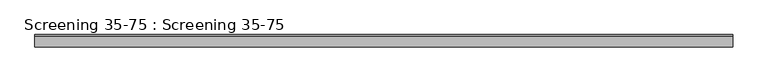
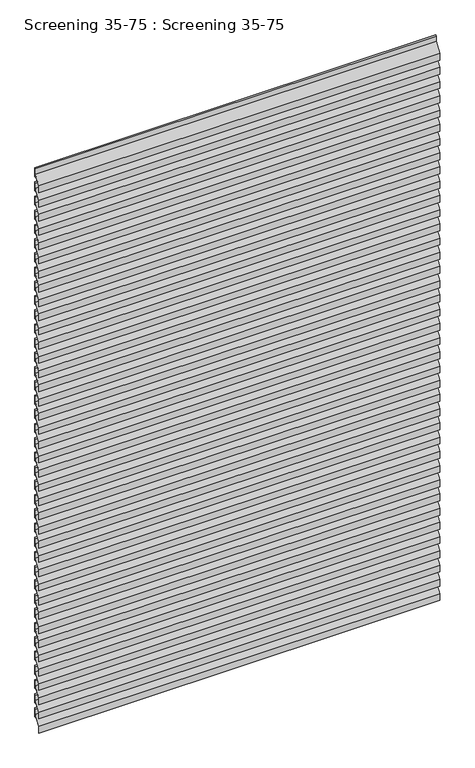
"""IFC4 building model written with IfcOpenShell, lengths in millimetres: plate geometry, Screening 35-75 : Screening 35-75."""

import ifcopenshell
import ifcopenshell.guid

model = None  # the IFC model being written
_history = None  # IfcOwnerHistory: only IFC2X3 demands one
_inside = {}  # id of a spatial element -> (the spatial element, [elements in it])
_under = {}  # id of a project, library or spatial element -> (it, [spatial elements below it])
_declared = {}  # id of a project -> (the project, [libraries it declares])
_typed = {}  # id of a type object -> (the type object, [elements of that type])
_made_of = {}  # id of a material, layer set ... -> (it, [elements and type objects made of it])


def new_model(schema):
    """Start an empty IFC model of exactly this schema.

    Asked for "IFC4X3", IfcOpenShell would pick the latest addendum, in which some entities
    have other attributes; the version numbers below select the first issue.
    IFC2X3 requires an IfcOwnerHistory on every rooted entity: one is made here for all.
    """
    global model, _history
    if schema == "IFC4X3":
        model = ifcopenshell.file(schema_version=(4, 3, 0, 0))
    else:
        model = ifcopenshell.file(schema=schema)
    _inside.clear()
    _under.clear()
    _declared.clear()
    _typed.clear()
    _made_of.clear()
    _history = None
    if model.schema == "IFC2X3":
        org = make("IfcOrganization", Name="unknown")
        user = make(
            "IfcPersonAndOrganization",
            ThePerson=make("IfcPerson", FamilyName="unknown"),
            TheOrganization=org,
        )
        app = make(
            "IfcApplication",
            ApplicationDeveloper=org,
            Version="unknown",
            ApplicationFullName="unknown",
            ApplicationIdentifier="unknown",
        )
        _history = make(
            "IfcOwnerHistory",
            OwningUser=user,
            OwningApplication=app,
            ChangeAction="ADDED",
            CreationDate=0,
        )
    return model


def make(cls, **values):
    """One entity of the class cls with the attributes given. An attribute that is None is left unset."""
    return model.create_entity(
        cls, **{name: value for name, value in values.items() if value is not None}
    )


def rooted(cls, **values):
    """An entity with a GlobalId (a new one), such as an element, a storey or a relation."""
    return make(cls, GlobalId=ifcopenshell.guid.new(), OwnerHistory=_history, **values)


def si_unit(unit_type, name, prefix=None):
    """IfcSIUnit, for example si_unit("LENGTHUNIT", "METRE", prefix="MILLI")."""
    return make("IfcSIUnit", UnitType=unit_type, Prefix=prefix, Name=name)


def assignment(units):
    """IfcUnitAssignment: the units of a project."""
    return None if units is None else make("IfcUnitAssignment", Units=units)


def point(xyz):
    """IfcCartesianPoint."""
    return None if xyz is None else make("IfcCartesianPoint", Coordinates=xyz)


def direction(xyz):
    """IfcDirection."""
    return None if xyz is None else make("IfcDirection", DirectionRatios=xyz)


def frame(location, z_axis=None, x_axis=None):
    """IfcAxis2Placement3D, a coordinate frame: its origin and axes. An axis left out is left unset."""
    return make(
        "IfcAxis2Placement3D",
        Location=point(location),
        Axis=direction(z_axis),
        RefDirection=direction(x_axis),
    )


def origin():
    """The frame at (0, 0, 0) with its axes left unset."""
    return frame((0.0, 0.0, 0.0))


def place(relative_to, where):
    """IfcLocalPlacement: puts the frame where relative to a parent placement (None: the world)."""
    return make(
        "IfcLocalPlacement", PlacementRelTo=relative_to, RelativePlacement=where
    )


def context(
    kind, dimensions, precision=None, world=None, true_north=None, identifier=None
):
    """IfcGeometricRepresentationContext, for example the 3D "Model" context."""
    return make(
        "IfcGeometricRepresentationContext",
        ContextIdentifier=identifier,
        ContextType=kind,
        CoordinateSpaceDimension=dimensions,
        Precision=precision,
        WorldCoordinateSystem=world,
        TrueNorth=true_north,
    )


def project(units=None, contexts=None):
    """IfcProject with its units and contexts."""
    return rooted(
        "IfcProject",
        Name="project",
        RepresentationContexts=contexts,
        UnitsInContext=assignment(units),
    )


def spatial(cls, under=None, at=None, **own):
    """A site, building, storey or space (cls), placed at a placement, below another one or the project."""
    s = rooted(cls, ObjectPlacement=at, **own)
    if under is not None:
        _under.setdefault(under.id(), (under, []))[1].append(s)
    return s


def polyline(points):
    """IfcPolyline through the points."""
    return make("IfcPolyline", Points=[point(p) for p in points])


def outline(outer, holes=None, kind="AREA"):
    """IfcArbitraryClosedProfileDef: a profile drawn as a closed curve; with holes, ...WithVoids."""
    if holes is None:
        return make("IfcArbitraryClosedProfileDef", ProfileType=kind, OuterCurve=outer)
    return make(
        "IfcArbitraryProfileDefWithVoids",
        ProfileType=kind,
        OuterCurve=outer,
        InnerCurves=holes,
    )


def extrude(swept, where, along, depth):
    """IfcExtrudedAreaSolid: the profile swept, set in the frame where, extruded along a direction by depth."""
    return make(
        "IfcExtrudedAreaSolid",
        SweptArea=swept,
        Position=where,
        ExtrudedDirection=direction(along),
        Depth=depth,
    )


def shape(context_of_items, identifier, shape_type, items):
    """IfcShapeRepresentation: the items that make up one representation, for example the "Body"."""
    return make(
        "IfcShapeRepresentation",
        ContextOfItems=context_of_items,
        RepresentationIdentifier=identifier,
        RepresentationType=shape_type,
        Items=items,
    )


def source(mapping_origin, context_of_items, identifier, shape_type, items):
    """IfcRepresentationMap: a shape defined once, which mapped items show again and again."""
    return make(
        "IfcRepresentationMap",
        MappingOrigin=mapping_origin,
        MappedRepresentation=shape(context_of_items, identifier, shape_type, items),
    )


def transform(
    local_origin,
    x_axis=None,
    y_axis=None,
    z_axis=None,
    scale=None,
    scale2=None,
    scale3=None,
    uniform=True,
):
    """IfcCartesianTransformationOperator3D, or its non-uniform kind. x_axis, y_axis, z_axis: its Axis1, 2, 3."""
    if uniform:
        return make(
            "IfcCartesianTransformationOperator3D",
            Axis1=direction(x_axis),
            Axis2=direction(y_axis),
            LocalOrigin=point(local_origin),
            Scale=scale,
            Axis3=direction(z_axis),
        )
    return make(
        "IfcCartesianTransformationOperator3DnonUniform",
        Axis1=direction(x_axis),
        Axis2=direction(y_axis),
        LocalOrigin=point(local_origin),
        Scale=scale,
        Axis3=direction(z_axis),
        Scale2=scale2,
        Scale3=scale3,
    )


def mapped(mapping_source, mapping_target):
    """IfcMappedItem: shows the shape of a source again, moved by a transform."""
    return make(
        "IfcMappedItem", MappingSource=mapping_source, MappingTarget=mapping_target
    )


def made_of(thing, what):
    """Note that an element or type object is made of a material, layer set ...; save() writes the relation."""
    if what is not None:
        _made_of.setdefault(what.id(), (what, []))[1].append(thing)
    return thing


def element(
    cls,
    number,
    at=None,
    inside=None,
    cuts=None,
    type_object=None,
    material=None,
    context=None,
    identifier="Body",
    shape_type=None,
    held_by="IfcProductDefinitionShape",
    body=None,
    shapes=None,
    **own,
):
    """One element of the class cls, such as IfcWall. Its Tag is "e" and its number.

    at: its placement. inside: the storey or other place that contains it. cuts: it is an
    opening in that element (IfcRelVoidsElement). A single representation is given by context,
    identifier, shape_type and body (its items); several are given by shapes. held_by: the class
    of the entity that holds the representations. save() writes the other relations.
    """
    e = rooted(cls, Tag="e%d" % number, ObjectPlacement=at, **own)
    if body is not None:
        shapes = [shape(context, identifier, shape_type, body)]
    if shapes is not None:
        e.Representation = make(held_by, Representations=shapes)
    if inside is not None:
        _inside.setdefault(inside.id(), (inside, []))[1].append(e)
    if cuts is not None:
        rooted(
            "IfcRelVoidsElement", RelatingBuildingElement=cuts, RelatedOpeningElement=e
        )
    if type_object is not None:
        _typed.setdefault(type_object.id(), (type_object, []))[1].append(e)
    return made_of(e, material)


def aggregate(whole, parts):
    """IfcRelAggregates: a whole, such as a stair, and the parts it consists of."""
    return rooted("IfcRelAggregates", RelatingObject=whole, RelatedObjects=parts)


def save(model, path):
    """Write the relations noted so far, then the file.

    IfcRelAggregates (storeys below a building ...), IfcRelContainedInSpatialStructure (elements
    in a storey), IfcRelDefinesByType, IfcRelAssociatesMaterial and IfcRelDeclares: one each for
    every whole, place, type object, material and project.
    """
    for whole, parts in _under.values():
        aggregate(whole, parts)
    for where, things in _inside.values():
        rooted(
            "IfcRelContainedInSpatialStructure",
            RelatedElements=things,
            RelatingStructure=where,
        )
    for kind, things in _typed.values():
        rooted("IfcRelDefinesByType", RelatedObjects=things, RelatingType=kind)
    for what, things in _made_of.values():
        rooted("IfcRelAssociatesMaterial", RelatedObjects=things, RelatingMaterial=what)
    for by, libraries in _declared.values():
        rooted("IfcRelDeclares", RelatingContext=by, RelatedDefinitions=libraries)
    model.write(path)


def screening_35_75_screening_35_75_4ebe1a9e(model_context):
    return source(origin(), model_context, "Body", "SweptSolid", [
        extrude(outline(polyline([(-34.9638304, 2862.1), (-34.9638304, 2898.1958995), (-4.35, 2941.9800402), (-4.35, 2969.1451224), (0.0, 2973.4298892), (0.0, 2926.6482493), (-13.0819089, 2926.6482493), (-33.4, 2897.5767062), (-33.4, 2862.1), (-34.9638304, 2862.1)])), frame((-1000.0, 0.0, 0.0), z_axis=(1.0, 0.0, 0.0), x_axis=(0.0, 1.0, 0.0)), (0.0, 0.0, 1.0), 2000.0),
        extrude(outline(polyline([(-34.9638304, 2787.1), (-34.9638304, 2823.1958995), (-4.35, 2866.9800402), (-4.35, 2894.1451224), (0.0, 2898.4298892), (0.0, 2851.6482493), (-13.0819089, 2851.6482493), (-33.4, 2822.5767062), (-33.4, 2787.1), (-34.9638304, 2787.1)])), frame((-1000.0, 0.0, 0.0), z_axis=(1.0, 0.0, 0.0), x_axis=(0.0, 1.0, 0.0)), (0.0, 0.0, 1.0), 2000.0),
        extrude(outline(polyline([(-34.9638304, 2712.1), (-34.9638304, 2748.1958995), (-4.35, 2791.9800402), (-4.35, 2819.1451224), (0.0, 2823.4298892), (0.0, 2776.6482493), (-13.0819089, 2776.6482493), (-33.4, 2747.5767062), (-33.4, 2712.1), (-34.9638304, 2712.1)])), frame((-1000.0, 0.0, 0.0), z_axis=(1.0, 0.0, 0.0), x_axis=(0.0, 1.0, 0.0)), (0.0, 0.0, 1.0), 2000.0),
        extrude(outline(polyline([(-34.9638304, 2637.1), (-34.9638304, 2673.1958995), (-4.35, 2716.9800402), (-4.35, 2744.1451224), (0.0, 2748.4298892), (0.0, 2701.6482493), (-13.0819089, 2701.6482493), (-33.4, 2672.5767062), (-33.4, 2637.1), (-34.9638304, 2637.1)])), frame((-1000.0, 0.0, 0.0), z_axis=(1.0, 0.0, 0.0), x_axis=(0.0, 1.0, 0.0)), (0.0, 0.0, 1.0), 2000.0),
        extrude(outline(polyline([(-34.9638304, 2562.1), (-34.9638304, 2598.1958995), (-4.35, 2641.9800402), (-4.35, 2669.1451224), (0.0, 2673.4298892), (0.0, 2626.6482493), (-13.0819089, 2626.6482493), (-33.4, 2597.5767062), (-33.4, 2562.1), (-34.9638304, 2562.1)])), frame((-1000.0, 0.0, 0.0), z_axis=(1.0, 0.0, 0.0), x_axis=(0.0, 1.0, 0.0)), (0.0, 0.0, 1.0), 2000.0),
        extrude(outline(polyline([(-34.9638304, 2487.1), (-34.9638304, 2523.1958995), (-4.35, 2566.9800402), (-4.35, 2594.1451224), (0.0, 2598.4298892), (0.0, 2551.6482493), (-13.0819089, 2551.6482493), (-33.4, 2522.5767062), (-33.4, 2487.1), (-34.9638304, 2487.1)])), frame((-1000.0, 0.0, 0.0), z_axis=(1.0, 0.0, 0.0), x_axis=(0.0, 1.0, 0.0)), (0.0, 0.0, 1.0), 2000.0),
        extrude(outline(polyline([(-34.9638304, 2412.1), (-34.9638304, 2448.1958995), (-4.35, 2491.9800402), (-4.35, 2519.1451224), (0.0, 2523.4298892), (0.0, 2476.6482493), (-13.0819089, 2476.6482493), (-33.4, 2447.5767062), (-33.4, 2412.1), (-34.9638304, 2412.1)])), frame((-1000.0, 0.0, 0.0), z_axis=(1.0, 0.0, 0.0), x_axis=(0.0, 1.0, 0.0)), (0.0, 0.0, 1.0), 2000.0),
        extrude(outline(polyline([(-34.9638304, 2337.1), (-34.9638304, 2373.1958995), (-4.35, 2416.9800402), (-4.35, 2444.1451224), (0.0, 2448.4298892), (0.0, 2401.6482493), (-13.0819089, 2401.6482493), (-33.4, 2372.5767062), (-33.4, 2337.1), (-34.9638304, 2337.1)])), frame((-1000.0, 0.0, 0.0), z_axis=(1.0, 0.0, 0.0), x_axis=(0.0, 1.0, 0.0)), (0.0, 0.0, 1.0), 2000.0),
        extrude(outline(polyline([(-34.9638304, 2262.1), (-34.9638304, 2298.1958995), (-4.35, 2341.9800402), (-4.35, 2369.1451224), (0.0, 2373.4298892), (0.0, 2326.6482493), (-13.0819089, 2326.6482493), (-33.4, 2297.5767062), (-33.4, 2262.1), (-34.9638304, 2262.1)])), frame((-1000.0, 0.0, 0.0), z_axis=(1.0, 0.0, 0.0), x_axis=(0.0, 1.0, 0.0)), (0.0, 0.0, 1.0), 2000.0),
        extrude(outline(polyline([(-34.9638304, 2187.1), (-34.9638304, 2223.1958995), (-4.35, 2266.9800402), (-4.35, 2294.1451224), (0.0, 2298.4298892), (0.0, 2251.6482493), (-13.0819089, 2251.6482493), (-33.4, 2222.5767062), (-33.4, 2187.1), (-34.9638304, 2187.1)])), frame((-1000.0, 0.0, 0.0), z_axis=(1.0, 0.0, 0.0), x_axis=(0.0, 1.0, 0.0)), (0.0, 0.0, 1.0), 2000.0),
        extrude(outline(polyline([(-34.9638304, 2112.1), (-34.9638304, 2148.1958995), (-4.35, 2191.9800402), (-4.35, 2219.1451224), (0.0, 2223.4298892), (0.0, 2176.6482493), (-13.0819089, 2176.6482493), (-33.4, 2147.5767062), (-33.4, 2112.1), (-34.9638304, 2112.1)])), frame((-1000.0, 0.0, 0.0), z_axis=(1.0, 0.0, 0.0), x_axis=(0.0, 1.0, 0.0)), (0.0, 0.0, 1.0), 2000.0),
        extrude(outline(polyline([(-34.9638304, 2037.1), (-34.9638304, 2073.1958995), (-4.35, 2116.9800402), (-4.35, 2144.1451224), (0.0, 2148.4298892), (0.0, 2101.6482493), (-13.0819089, 2101.6482493), (-33.4, 2072.5767062), (-33.4, 2037.1), (-34.9638304, 2037.1)])), frame((-1000.0, 0.0, 0.0), z_axis=(1.0, 0.0, 0.0), x_axis=(0.0, 1.0, 0.0)), (0.0, 0.0, 1.0), 2000.0),
        extrude(outline(polyline([(-34.9638304, 1962.1), (-34.9638304, 1998.1958995), (-4.35, 2041.9800402), (-4.35, 2069.1451224), (0.0, 2073.4298892), (0.0, 2026.6482493), (-13.0819089, 2026.6482493), (-33.4, 1997.5767062), (-33.4, 1962.1), (-34.9638304, 1962.1)])), frame((-1000.0, 0.0, 0.0), z_axis=(1.0, 0.0, 0.0), x_axis=(0.0, 1.0, 0.0)), (0.0, 0.0, 1.0), 2000.0),
        extrude(outline(polyline([(-34.9638304, 1887.1), (-34.9638304, 1923.1958995), (-4.35, 1966.9800402), (-4.35, 1994.1451224), (0.0, 1998.4298892), (0.0, 1951.6482493), (-13.0819089, 1951.6482493), (-33.4, 1922.5767062), (-33.4, 1887.1), (-34.9638304, 1887.1)])), frame((-1000.0, 0.0, 0.0), z_axis=(1.0, 0.0, 0.0), x_axis=(0.0, 1.0, 0.0)), (0.0, 0.0, 1.0), 2000.0),
        extrude(outline(polyline([(-34.9638304, 1812.1), (-34.9638304, 1848.1958995), (-4.35, 1891.9800402), (-4.35, 1919.1451224), (0.0, 1923.4298892), (0.0, 1876.6482493), (-13.0819089, 1876.6482493), (-33.4, 1847.5767062), (-33.4, 1812.1), (-34.9638304, 1812.1)])), frame((-1000.0, 0.0, 0.0), z_axis=(1.0, 0.0, 0.0), x_axis=(0.0, 1.0, 0.0)), (0.0, 0.0, 1.0), 2000.0),
        extrude(outline(polyline([(-34.9638304, 1737.1), (-34.9638304, 1773.1958995), (-4.35, 1816.9800402), (-4.35, 1844.1451224), (0.0, 1848.4298892), (0.0, 1801.6482493), (-13.0819089, 1801.6482493), (-33.4, 1772.5767062), (-33.4, 1737.1), (-34.9638304, 1737.1)])), frame((-1000.0, 0.0, 0.0), z_axis=(1.0, 0.0, 0.0), x_axis=(0.0, 1.0, 0.0)), (0.0, 0.0, 1.0), 2000.0),
        extrude(outline(polyline([(-34.9638304, 1662.1), (-34.9638304, 1698.1958995), (-4.35, 1741.9800402), (-4.35, 1769.1451224), (0.0, 1773.4298892), (0.0, 1726.6482493), (-13.0819089, 1726.6482493), (-33.4, 1697.5767062), (-33.4, 1662.1), (-34.9638304, 1662.1)])), frame((-1000.0, 0.0, 0.0), z_axis=(1.0, 0.0, 0.0), x_axis=(0.0, 1.0, 0.0)), (0.0, 0.0, 1.0), 2000.0),
        extrude(outline(polyline([(-34.9638304, 1587.1), (-34.9638304, 1623.1958995), (-4.35, 1666.9800402), (-4.35, 1694.1451224), (0.0, 1698.4298892), (0.0, 1651.6482493), (-13.0819089, 1651.6482493), (-33.4, 1622.5767062), (-33.4, 1587.1), (-34.9638304, 1587.1)])), frame((-1000.0, 0.0, 0.0), z_axis=(1.0, 0.0, 0.0), x_axis=(0.0, 1.0, 0.0)), (0.0, 0.0, 1.0), 2000.0),
        extrude(outline(polyline([(-34.9638304, 1512.1), (-34.9638304, 1548.1958995), (-4.35, 1591.9800402), (-4.35, 1619.1451224), (0.0, 1623.4298892), (0.0, 1576.6482493), (-13.0819089, 1576.6482493), (-33.4, 1547.5767062), (-33.4, 1512.1), (-34.9638304, 1512.1)])), frame((-1000.0, 0.0, 0.0), z_axis=(1.0, 0.0, 0.0), x_axis=(0.0, 1.0, 0.0)), (0.0, 0.0, 1.0), 2000.0),
        extrude(outline(polyline([(-34.9638304, 1437.1), (-34.9638304, 1473.1958995), (-4.35, 1516.9800402), (-4.35, 1544.1451224), (0.0, 1548.4298892), (0.0, 1501.6482493), (-13.0819089, 1501.6482493), (-33.4, 1472.5767062), (-33.4, 1437.1), (-34.9638304, 1437.1)])), frame((-1000.0, 0.0, 0.0), z_axis=(1.0, 0.0, 0.0), x_axis=(0.0, 1.0, 0.0)), (0.0, 0.0, 1.0), 2000.0),
        extrude(outline(polyline([(-34.9638304, 1362.1), (-34.9638304, 1398.1958995), (-4.35, 1441.9800402), (-4.35, 1469.1451224), (0.0, 1473.4298892), (0.0, 1426.6482493), (-13.0819089, 1426.6482493), (-33.4, 1397.5767062), (-33.4, 1362.1), (-34.9638304, 1362.1)])), frame((-1000.0, 0.0, 0.0), z_axis=(1.0, 0.0, 0.0), x_axis=(0.0, 1.0, 0.0)), (0.0, 0.0, 1.0), 2000.0),
        extrude(outline(polyline([(-34.9638304, 1287.1), (-34.9638304, 1323.1958995), (-4.35, 1366.9800402), (-4.35, 1394.1451224), (0.0, 1398.4298892), (0.0, 1351.6482493), (-13.0819089, 1351.6482493), (-33.4, 1322.5767062), (-33.4, 1287.1), (-34.9638304, 1287.1)])), frame((-1000.0, 0.0, 0.0), z_axis=(1.0, 0.0, 0.0), x_axis=(0.0, 1.0, 0.0)), (0.0, 0.0, 1.0), 2000.0),
        extrude(outline(polyline([(-34.9638304, 1212.1), (-34.9638304, 1248.1958995), (-4.35, 1291.9800402), (-4.35, 1319.1451224), (0.0, 1323.4298892), (0.0, 1276.6482493), (-13.0819089, 1276.6482493), (-33.4, 1247.5767062), (-33.4, 1212.1), (-34.9638304, 1212.1)])), frame((-1000.0, 0.0, 0.0), z_axis=(1.0, 0.0, 0.0), x_axis=(0.0, 1.0, 0.0)), (0.0, 0.0, 1.0), 2000.0),
        extrude(outline(polyline([(-34.9638304, 1137.1), (-34.9638304, 1173.1958995), (-4.35, 1216.9800402), (-4.35, 1244.1451224), (0.0, 1248.4298892), (0.0, 1201.6482493), (-13.0819089, 1201.6482493), (-33.4, 1172.5767062), (-33.4, 1137.1), (-34.9638304, 1137.1)])), frame((-1000.0, 0.0, 0.0), z_axis=(1.0, 0.0, 0.0), x_axis=(0.0, 1.0, 0.0)), (0.0, 0.0, 1.0), 2000.0),
        extrude(outline(polyline([(-34.9638304, 1062.1), (-34.9638304, 1098.1958995), (-4.35, 1141.9800402), (-4.35, 1169.1451224), (0.0, 1173.4298892), (0.0, 1126.6482493), (-13.0819089, 1126.6482493), (-33.4, 1097.5767062), (-33.4, 1062.1), (-34.9638304, 1062.1)])), frame((-1000.0, 0.0, 0.0), z_axis=(1.0, 0.0, 0.0), x_axis=(0.0, 1.0, 0.0)), (0.0, 0.0, 1.0), 2000.0),
        extrude(outline(polyline([(-34.9638304, 987.1), (-34.9638304, 1023.1958995), (-4.35, 1066.9800402), (-4.35, 1094.1451224), (0.0, 1098.4298892), (0.0, 1051.6482493), (-13.0819089, 1051.6482493), (-33.4, 1022.5767062), (-33.4, 987.1), (-34.9638304, 987.1)])), frame((-1000.0, 0.0, 0.0), z_axis=(1.0, 0.0, 0.0), x_axis=(0.0, 1.0, 0.0)), (0.0, 0.0, 1.0), 2000.0),
        extrude(outline(polyline([(-34.9638304, 912.1), (-34.9638304, 948.1958995), (-4.35, 991.9800402), (-4.35, 1019.1451224), (0.0, 1023.4298892), (0.0, 976.6482493), (-13.0819089, 976.6482493), (-33.4, 947.5767062), (-33.4, 912.1), (-34.9638304, 912.1)])), frame((-1000.0, 0.0, 0.0), z_axis=(1.0, 0.0, 0.0), x_axis=(0.0, 1.0, 0.0)), (0.0, 0.0, 1.0), 2000.0),
        extrude(outline(polyline([(-34.9638304, 837.1), (-34.9638304, 873.1958995), (-4.35, 916.9800402), (-4.35, 944.1451224), (0.0, 948.4298892), (0.0, 901.6482493), (-13.0819089, 901.6482493), (-33.4, 872.5767062), (-33.4, 837.1), (-34.9638304, 837.1)])), frame((-1000.0, 0.0, 0.0), z_axis=(1.0, 0.0, 0.0), x_axis=(0.0, 1.0, 0.0)), (0.0, 0.0, 1.0), 2000.0),
        extrude(outline(polyline([(-34.9638304, 762.1), (-34.9638304, 798.1958995), (-4.35, 841.9800402), (-4.35, 869.1451224), (0.0, 873.4298892), (0.0, 826.6482493), (-13.0819089, 826.6482493), (-33.4, 797.5767062), (-33.4, 762.1), (-34.9638304, 762.1)])), frame((-1000.0, 0.0, 0.0), z_axis=(1.0, 0.0, 0.0), x_axis=(0.0, 1.0, 0.0)), (0.0, 0.0, 1.0), 2000.0),
        extrude(outline(polyline([(-34.9638304, 687.1), (-34.9638304, 723.1958995), (-4.35, 766.9800402), (-4.35, 794.1451224), (0.0, 798.4298892), (0.0, 751.6482493), (-13.0819089, 751.6482493), (-33.4, 722.5767062), (-33.4, 687.1), (-34.9638304, 687.1)])), frame((-1000.0, 0.0, 0.0), z_axis=(1.0, 0.0, 0.0), x_axis=(0.0, 1.0, 0.0)), (0.0, 0.0, 1.0), 2000.0),
        extrude(outline(polyline([(-34.9638304, 612.1), (-34.9638304, 648.1958995), (-4.35, 691.9800402), (-4.35, 719.1451224), (0.0, 723.4298892), (0.0, 676.6482493), (-13.0819089, 676.6482493), (-33.4, 647.5767062), (-33.4, 612.1), (-34.9638304, 612.1)])), frame((-1000.0, 0.0, 0.0), z_axis=(1.0, 0.0, 0.0), x_axis=(0.0, 1.0, 0.0)), (0.0, 0.0, 1.0), 2000.0),
        extrude(outline(polyline([(-34.9638304, 537.1), (-34.9638304, 573.1958995), (-4.35, 616.9800402), (-4.35, 644.1451224), (0.0, 648.4298892), (0.0, 601.6482493), (-13.0819089, 601.6482493), (-33.4, 572.5767062), (-33.4, 537.1), (-34.9638304, 537.1)])), frame((-1000.0, 0.0, 0.0), z_axis=(1.0, 0.0, 0.0), x_axis=(0.0, 1.0, 0.0)), (0.0, 0.0, 1.0), 2000.0),
        extrude(outline(polyline([(-34.9638304, 462.1), (-34.9638304, 498.1958995), (-4.35, 541.9800402), (-4.35, 569.1451224), (0.0, 573.4298892), (0.0, 526.6482493), (-13.0819089, 526.6482493), (-33.4, 497.5767062), (-33.4, 462.1), (-34.9638304, 462.1)])), frame((-1000.0, 0.0, 0.0), z_axis=(1.0, 0.0, 0.0), x_axis=(0.0, 1.0, 0.0)), (0.0, 0.0, 1.0), 2000.0),
        extrude(outline(polyline([(-34.9638304, 387.1), (-34.9638304, 423.1958995), (-4.35, 466.9800402), (-4.35, 494.1451224), (0.0, 498.4298892), (0.0, 451.6482493), (-13.0819089, 451.6482493), (-33.4, 422.5767062), (-33.4, 387.1), (-34.9638304, 387.1)])), frame((-1000.0, 0.0, 0.0), z_axis=(1.0, 0.0, 0.0), x_axis=(0.0, 1.0, 0.0)), (0.0, 0.0, 1.0), 2000.0),
        extrude(outline(polyline([(-34.9638304, 312.1), (-34.9638304, 348.1958995), (-4.35, 391.9800402), (-4.35, 419.1451224), (0.0, 423.4298892), (0.0, 376.6482493), (-13.0819089, 376.6482493), (-33.4, 347.5767062), (-33.4, 312.1), (-34.9638304, 312.1)])), frame((-1000.0, 0.0, 0.0), z_axis=(1.0, 0.0, 0.0), x_axis=(0.0, 1.0, 0.0)), (0.0, 0.0, 1.0), 2000.0),
        extrude(outline(polyline([(-34.9638304, 237.1), (-34.9638304, 273.1958995), (-4.35, 316.9800402), (-4.35, 344.1451224), (0.0, 348.4298892), (0.0, 301.6482493), (-13.0819089, 301.6482493), (-33.4, 272.5767062), (-33.4, 237.1), (-34.9638304, 237.1)])), frame((-1000.0, 0.0, 0.0), z_axis=(1.0, 0.0, 0.0), x_axis=(0.0, 1.0, 0.0)), (0.0, 0.0, 1.0), 2000.0),
        extrude(outline(polyline([(-34.9638304, 162.1), (-34.9638304, 198.1958995), (-4.35, 241.9800402), (-4.35, 269.1451224), (0.0, 273.4298892), (0.0, 226.6482493), (-13.0819089, 226.6482493), (-33.4, 197.5767062), (-33.4, 162.1), (-34.9638304, 162.1)])), frame((-1000.0, 0.0, 0.0), z_axis=(1.0, 0.0, 0.0), x_axis=(0.0, 1.0, 0.0)), (0.0, 0.0, 1.0), 2000.0),
        extrude(outline(polyline([(-34.9638304, 87.1), (-34.9638304, 123.1958995), (-4.35, 166.9800402), (-4.35, 194.1451224), (0.0, 198.4298892), (0.0, 151.6482493), (-13.0819089, 151.6482493), (-33.4, 122.5767062), (-33.4, 87.1), (-34.9638304, 87.1)])), frame((-1000.0, 0.0, 0.0), z_axis=(1.0, 0.0, 0.0), x_axis=(0.0, 1.0, 0.0)), (0.0, 0.0, 1.0), 2000.0),
        extrude(outline(polyline([(-34.9638304, 12.1), (-34.9638304, 48.1958995), (-4.35, 91.9800402), (-4.35, 119.1451224), (0.0, 123.4298892), (0.0, 76.6482493), (-13.0819089, 76.6482493), (-33.4, 47.5767062), (-33.4, 12.1), (-34.9638304, 12.1)])), frame((-1000.0, 0.0, 0.0), z_axis=(1.0, 0.0, 0.0), x_axis=(0.0, 1.0, 0.0)), (0.0, 0.0, 1.0), 2000.0),
    ])


if __name__ == "__main__":
    model = new_model("IFC4")
    model_context = context("Model", 3, world=origin())
    ifc_project = project(units=[si_unit("LENGTHUNIT", "METRE", prefix="MILLI")], contexts=[model_context])
    site = spatial("IfcSite", under=ifc_project)
    building = spatial("IfcBuilding", under=site)
    placement = place(None, origin())
    screening_35_75_screening_35_75_shape = screening_35_75_screening_35_75_4ebe1a9e(model_context)
    element("IfcPlate", 1, ObjectType="Screening 35-75 : Screening 35-75", at=placement, inside=building, context=model_context, shape_type="MappedRepresentation", body=[
        mapped(screening_35_75_screening_35_75_shape, transform((0.0, 0.0, 0.0), x_axis=(1.0, 0.0, 0.0), y_axis=(0.0, 1.0, 0.0), z_axis=(0.0, 0.0, 1.0))),
    ])
    save(model, "model.ifc")
